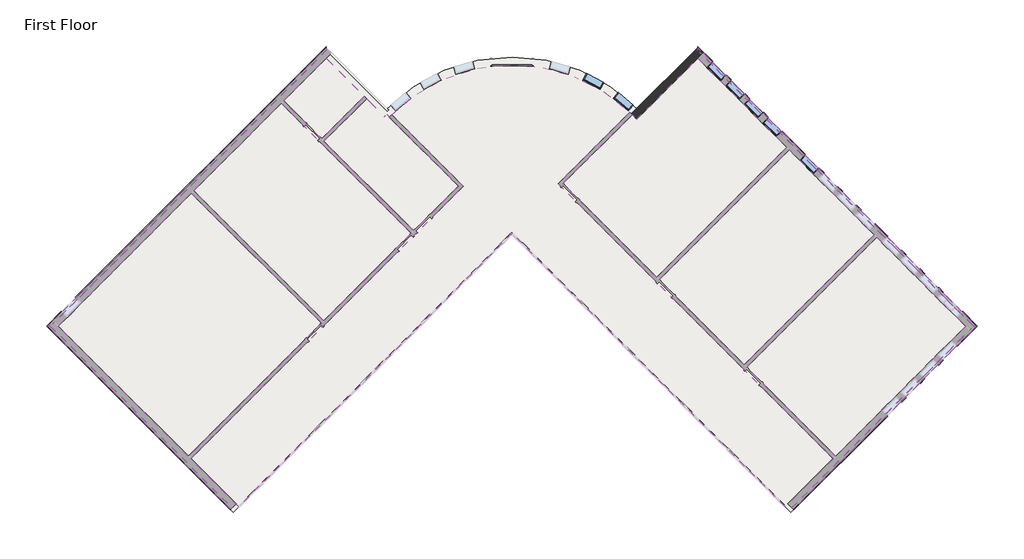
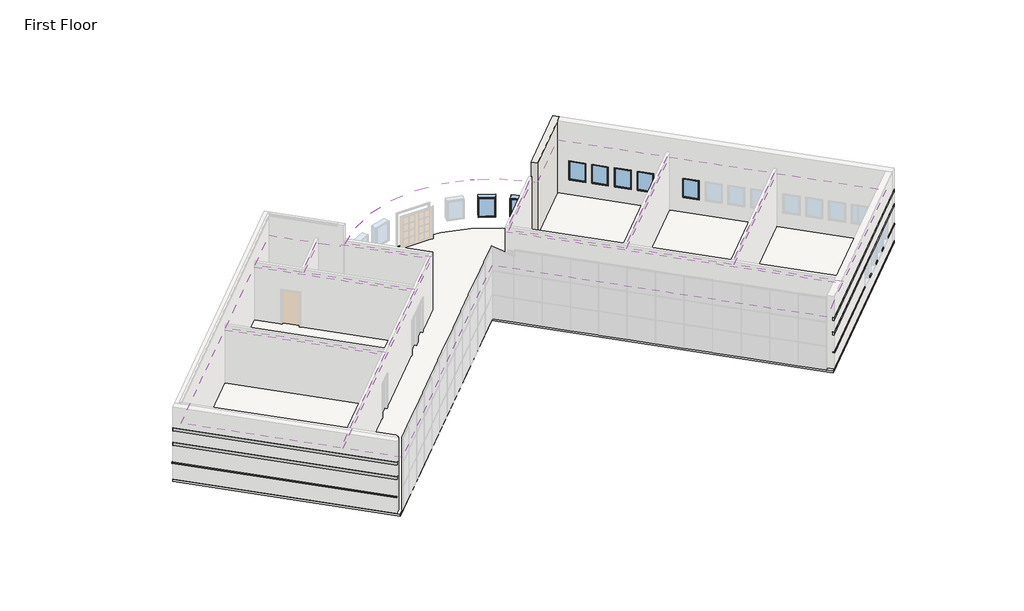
# One storey, part 5 of 5: 12 proxies, 8 coverings, 7 windows, 1 slab, 1 wall.
"""IFC4 building model written with IfcOpenShell, lengths in millimetres."""

from ifc_helpers import new_model, si_unit, point, frame, frame_2d, origin, place, context, project, spatial, polyline, circle_curve, trimmed, segment, composite_curve, outline, extrude, faceted_brep, transform, mapped, element, save
from ifc_brep_helpers import plane_surface, cylinder_surface, revolved_surface, advanced_brep
from components import window_15c49d37, window_0e2fc6ce

model = new_model("IFC4")

# Units and contexts
model_context = context("Model", 3, world=origin())
ifc_project = project(units=[si_unit("LENGTHUNIT", "METRE", prefix="MILLI")], contexts=[model_context])

# Site, building, storey
site = spatial("IfcSite", under=ifc_project)
building = spatial("IfcBuilding", under=site)
storey = spatial("IfcBuildingStorey", under=building, Name="First Floor", Elevation=0.0)

# Proxies
placement = place(None, origin())
element("IfcBuildingElementProxy", 1, Name="Wall Sweeps", at=placement, inside=storey, context=model_context, shape_type="Brep", body=[
    faceted_brep([(17381.0808171, -1390.1662438, 1085.85), (17446.187674, -1325.0593869, 1085.85), (17470.8833783, -1300.3636826, 1041.4), (17470.8833783, -1300.3636826, 1016.0), (17446.187674, -1325.0593869, 1016.0), (17381.0808171, -1390.1662438, 1016.0), (17979.3903812, -1988.4758079, 1085.85), (17979.3903812, -1988.4758079, 1016.0), (18158.9955036, -1988.4758079, 1016.0), (18158.9955036, -1988.4758079, 1041.4), (18109.604095, -1988.4758079, 1085.85)], [[[0, 1, 2, 3, 4, 5]], [[6, 7, 8, 9, 10]], [[1, 0, 6, 10]], [[2, 1, 10, 9]], [[3, 2, 9, 8]], [[5, 4, 3, 8, 7]], [[0, 5, 7, 6]]]),
    faceted_brep([(16269.7741222, -278.8595488, 1085.85), (16334.880979, -213.7526919, 1085.85), (16359.5766834, -189.0569876, 1041.4), (16359.5766834, -189.0569876, 1016.0), (16334.880979, -213.7526919, 1016.0), (16269.7741222, -278.8595488, 1016.0), (16485.3002691, -494.3856957, 1085.85), (16485.3002691, -494.3856957, 1016.0), (16550.4071259, -429.2788388, 1016.0), (16575.1028303, -404.5831345, 1016.0), (16575.1028303, -404.5831345, 1041.4), (16550.4071259, -429.2788388, 1085.85)], [[[0, 1, 2, 3, 4, 5]], [[6, 7, 8, 9, 10, 11]], [[1, 0, 6, 11]], [[2, 1, 11, 10]], [[3, 2, 10, 9]], [[5, 4, 3, 9, 8, 7]], [[0, 5, 7, 6]]]),
    faceted_brep([(15407.6695345, 583.2450388, 1085.85), (15472.7763914, 648.3518957, 1085.85), (15497.4720957, 673.0476, 1041.4), (15497.4720957, 673.0476, 1016.0), (15472.7763914, 648.3518957, 1016.0), (15407.6695345, 583.2450388, 1016.0), (15623.1956814, 367.7188919, 1085.85), (15623.1956814, 367.7188919, 1016.0), (15688.3025383, 432.8257488, 1016.0), (15712.9982426, 457.5214531, 1016.0), (15712.9982426, 457.5214531, 1041.4), (15688.3025383, 432.8257488, 1085.85)], [[[0, 1, 2, 3, 4, 5]], [[6, 7, 8, 9, 10, 11]], [[1, 0, 6, 11]], [[2, 1, 11, 10]], [[3, 2, 10, 9]], [[5, 4, 3, 9, 8, 7]], [[0, 5, 7, 6]]]),
    faceted_brep([(14545.5649469, 1445.3496264, 1085.85), (14610.6718038, 1510.4564833, 1085.85), (14635.3675081, 1535.1521876, 1041.4), (14635.3675081, 1535.1521876, 1016.0), (14610.6718038, 1510.4564833, 1016.0), (14545.5649469, 1445.3496264, 1016.0), (14761.0910938, 1229.8234795, 1085.85), (14761.0910938, 1229.8234795, 1016.0), (14826.1979507, 1294.9303364, 1016.0), (14850.893655, 1319.6260407, 1016.0), (14850.893655, 1319.6260407, 1041.4), (14826.1979507, 1294.9303364, 1085.85)], [[[0, 1, 2, 3, 4, 5]], [[6, 7, 8, 9, 10, 11]], [[1, 0, 6, 11]], [[2, 1, 11, 10]], [[3, 2, 10, 9]], [[5, 4, 3, 9, 8, 7]], [[0, 5, 7, 6]]]),
    faceted_brep([(13319.7599864, 2671.154587, 1085.85), (13384.8668433, 2736.2614438, 1085.85), (13409.5625476, 2760.9571482, 1041.4), (13409.5625476, 2760.9571482, 1016.0), (13384.8668433, 2736.2614438, 1016.0), (13319.7599864, 2671.154587, 1016.0), (13898.9865062, 2091.9280671, 1085.85), (13898.9865062, 2091.9280671, 1016.0), (13964.0933631, 2157.034924, 1016.0), (13988.7890674, 2181.7306284, 1016.0), (13988.7890674, 2181.7306284, 1041.4), (13964.0933631, 2157.034924, 1085.85)], [[[0, 1, 2, 3, 4, 5]], [[6, 7, 8, 9, 10, 11]], [[1, 0, 6, 11]], [[2, 1, 11, 10]], [[3, 2, 10, 9]], [[5, 4, 3, 9, 8, 7]], [[0, 5, 7, 6]]]),
    faceted_brep([(12457.6553988, 3533.2591746, 1085.85), (12522.7622556, 3598.3660315, 1085.85), (12547.45796, 3623.0617358, 1041.4), (12547.45796, 3623.0617358, 1016.0), (12522.7622556, 3598.3660315, 1016.0), (12457.6553988, 3533.2591746, 1016.0), (12673.1815457, 3317.7330277, 1085.85), (12673.1815457, 3317.7330277, 1016.0), (12738.2884025, 3382.8398846, 1016.0), (12762.9841069, 3407.5355889, 1016.0), (12762.9841069, 3407.5355889, 1041.4), (12738.2884025, 3382.8398846, 1085.85)], [[[0, 1, 2, 3, 4, 5]], [[6, 7, 8, 9, 10, 11]], [[1, 0, 6, 11]], [[2, 1, 11, 10]], [[3, 2, 10, 9]], [[5, 4, 3, 9, 8, 7]], [[0, 5, 7, 6]]]),
    faceted_brep([(8147.1324606, 7843.7821127, 1085.85), (8212.2393175, 7908.8889696, 1085.85), (8236.9350219, 7933.5846739, 1041.4), (8236.9350219, 7933.5846739, 1016.0), (8212.2393175, 7908.8889696, 1016.0), (8147.1324606, 7843.7821127, 1016.0), (8362.6586076, 7628.2559658, 1085.85), (8362.6586076, 7628.2559658, 1016.0), (8427.7654644, 7693.3628227, 1016.0), (8452.4611688, 7718.058527, 1016.0), (8452.4611688, 7718.058527, 1041.4), (8427.7654644, 7693.3628227, 1085.85)], [[[0, 1, 2, 3, 4, 5]], [[6, 7, 8, 9, 10, 11]], [[1, 0, 6, 11]], [[2, 1, 11, 10]], [[3, 2, 10, 9]], [[5, 4, 3, 9, 8, 7]], [[0, 5, 7, 6]]]),
    faceted_brep([(9009.2370483, 6981.6775251, 1085.85), (9074.3439051, 7046.7843819, 1085.85), (9099.0396095, 7071.4800863, 1041.4), (9099.0396095, 7071.4800863, 1016.0), (9074.3439051, 7046.7843819, 1016.0), (9009.2370483, 6981.6775251, 1016.0), (10086.8677828, 5904.0467905, 1085.85), (10086.8677828, 5904.0467905, 1016.0), (10151.9746397, 5969.1536474, 1016.0), (10176.670344, 5993.8493518, 1016.0), (10176.670344, 5993.8493518, 1041.4), (10151.9746397, 5969.1536474, 1085.85)], [[[0, 1, 2, 3, 4, 5]], [[6, 7, 8, 9, 10, 11]], [[1, 0, 6, 11]], [[2, 1, 11, 10]], [[3, 2, 10, 9]], [[5, 4, 3, 9, 8, 7]], [[0, 5, 7, 6]]]),
    faceted_brep([(10733.4462235, 5257.4683498, 1085.85), (10798.5530804, 5322.5752067, 1085.85), (10823.2487847, 5347.270911, 1041.4), (10823.2487847, 5347.270911, 1016.0), (10798.5530804, 5322.5752067, 1016.0), (10733.4462235, 5257.4683498, 1016.0), (10948.9723704, 5041.9422029, 1085.85), (10948.9723704, 5041.9422029, 1016.0), (11014.0792273, 5107.0490598, 1016.0), (11038.7749316, 5131.7447641, 1016.0), (11038.7749316, 5131.7447641, 1041.4), (11014.0792273, 5107.0490598, 1085.85)], [[[0, 1, 2, 3, 4, 5]], [[6, 7, 8, 9, 10, 11]], [[1, 0, 6, 11]], [[2, 1, 11, 10]], [[3, 2, 10, 9]], [[5, 4, 3, 9, 8, 7]], [[0, 5, 7, 6]]]),
    faceted_brep([(11595.5508111, 4395.3637622, 1085.85), (11660.657668, 4460.4706191, 1085.85), (11685.3533723, 4485.1663234, 1041.4), (11685.3533723, 4485.1663234, 1016.0), (11660.657668, 4460.4706191, 1016.0), (11595.5508111, 4395.3637622, 1016.0), (11811.076958, 4179.8376153, 1085.85), (11811.076958, 4179.8376153, 1016.0), (11876.1838149, 4244.9444722, 1016.0), (11900.8795193, 4269.6401765, 1016.0), (11900.8795193, 4269.6401765, 1041.4), (11876.1838149, 4244.9444722, 1085.85)], [[[0, 1, 2, 3, 4, 5]], [[6, 7, 8, 9, 10, 11]], [[1, 0, 6, 11]], [[2, 1, 11, 10]], [[3, 2, 10, 9]], [[5, 4, 3, 9, 8, 7]], [[0, 5, 7, 6]]]),
    faceted_brep([(5178.0352806, 10812.8792927, 1085.85), (5178.0352806, 10943.0930065, 1085.85), (5178.0352806, 10992.4844151, 1041.4), (5178.0352806, 10992.4844151, 1016.0), (5178.0352806, 10812.8792927, 1016.0), (5776.3448447, 10214.5697287, 1085.85), (5776.3448447, 10214.5697287, 1016.0), (5841.4517016, 10279.6765855, 1016.0), (5866.1474059, 10304.3722899, 1016.0), (5866.1474059, 10304.3722899, 1041.4), (5841.4517016, 10279.6765855, 1085.85), (5362.1305311, 10628.7840422, 1085.85), (5362.1305311, 10628.7840422, 1016.0)], [[[0, 1, 2, 3, 4]], [[5, 6, 7, 8, 9, 10]], [[1, 0, 11, 5, 10]], [[2, 1, 10, 9]], [[3, 2, 9, 8]], [[4, 3, 8, 7, 6, 12]], [[0, 4, 12, 6, 5, 11]]]),
    faceted_brep([(6422.9232854, 9567.9912879, 1085.85), (6488.0301423, 9633.0981448, 1085.85), (6512.7258466, 9657.7938491, 1041.4), (6512.7258466, 9657.7938491, 1016.0), (6488.0301423, 9633.0981448, 1016.0), (6422.9232854, 9567.9912879, 1016.0), (6638.4494323, 9352.465141, 1085.85), (6638.4494323, 9352.465141, 1016.0), (6703.5562892, 9417.5719979, 1016.0), (6728.2519935, 9442.2677022, 1016.0), (6728.2519935, 9442.2677022, 1041.4), (6703.5562892, 9417.5719979, 1085.85)], [[[0, 1, 2, 3, 4, 5]], [[6, 7, 8, 9, 10, 11]], [[1, 0, 6, 11]], [[2, 1, 11, 10]], [[3, 2, 10, 9]], [[5, 4, 3, 9, 8, 7]], [[0, 5, 7, 6]]]),
    faceted_brep([(7285.027873, 8705.8867003, 1085.85), (7350.1347299, 8770.9935572, 1085.85), (7374.8304342, 8795.6892615, 1041.4), (7374.8304342, 8795.6892615, 1016.0), (7350.1347299, 8770.9935572, 1016.0), (7285.027873, 8705.8867003, 1016.0), (7500.5540199, 8490.3605534, 1085.85), (7500.5540199, 8490.3605534, 1016.0), (7565.6608768, 8555.4674103, 1016.0), (7590.3565811, 8580.1631146, 1016.0), (7590.3565811, 8580.1631146, 1041.4), (7565.6608768, 8555.4674103, 1085.85)], [[[0, 1, 2, 3, 4, 5]], [[6, 7, 8, 9, 10, 11]], [[1, 0, 6, 11]], [[2, 1, 11, 10]], [[3, 2, 10, 9]], [[5, 4, 3, 9, 8, 7]], [[0, 5, 7, 6]]]),
])
element("IfcBuildingElementProxy", 2, Name="Wall Sweeps", at=placement, inside=storey, context=model_context, shape_type="Brep", body=[
    faceted_brep([(5178.0352806, 10943.0930065, 2336.8), (5178.0352806, 10943.0930065, 2133.6), (5178.0352806, 10812.8792927, 2133.6), (5178.0352806, 10812.8792927, 2336.8), (18109.604095, -1988.4758079, 2336.8), (17979.3903812, -1988.4758079, 2336.8), (17979.3903812, -1988.4758079, 2133.6), (18109.604095, -1988.4758079, 2133.6), (5427.237388, 10693.8908991, 2336.8), (17446.187674, -1325.0593869, 2133.6), (16550.4071259, -429.2788388, 2133.6), (16334.880979, -213.7526919, 2133.6), (15688.3025383, 432.8257488, 2133.6), (15472.7763914, 648.3518957, 2133.6), (14826.1979507, 1294.9303364, 2133.6), (14610.6718038, 1510.4564833, 2133.6), (13964.0933631, 2157.034924, 2133.6), (13384.8668433, 2736.2614438, 2133.6), (12738.2884025, 3382.8398846, 2133.6), (12522.7622556, 3598.3660315, 2133.6), (11876.1838149, 4244.9444722, 2133.6), (11660.657668, 4460.4706191, 2133.6), (11014.0792273, 5107.0490598, 2133.6), (10798.5530804, 5322.5752067, 2133.6), (10151.9746397, 5969.1536474, 2133.6), (9074.3439051, 7046.7843819, 2133.6), (8427.7654644, 7693.3628227, 2133.6), (8212.2393175, 7908.8889696, 2133.6), (7565.6608768, 8555.4674103, 2133.6), (7350.1347299, 8770.9935572, 2133.6), (6703.5562892, 9417.5719979, 2133.6), (6488.0301423, 9633.0981448, 2133.6), (5841.4517016, 10279.6765855, 2133.6), (5427.237388, 10693.8908991, 2133.6), (17381.0808171, -1390.1662438, 2133.6), (16485.3002691, -494.3856957, 2133.6), (16269.7741222, -278.8595488, 2133.6), (15623.1956814, 367.7188919, 2133.6), (15407.6695345, 583.2450388, 2133.6), (14761.0910938, 1229.8234795, 2133.6), (14545.5649469, 1445.3496264, 2133.6), (13898.9865062, 2091.9280671, 2133.6), (13319.7599864, 2671.154587, 2133.6), (12673.1815457, 3317.7330277, 2133.6), (12457.6553988, 3533.2591746, 2133.6), (11811.076958, 4179.8376153, 2133.6), (11595.5508111, 4395.3637622, 2133.6), (10948.9723704, 5041.9422029, 2133.6), (10733.4462235, 5257.4683498, 2133.6), (10086.8677828, 5904.0467905, 2133.6), (9009.2370483, 6981.6775251, 2133.6), (8362.6586076, 7628.2559658, 2133.6), (8147.1324606, 7843.7821127, 2133.6), (7500.5540199, 8490.3605534, 2133.6), (7285.027873, 8705.8867003, 2133.6), (6638.4494323, 9352.465141, 2133.6), (6422.9232854, 9567.9912879, 2133.6), (5776.3448447, 10214.5697287, 2133.6), (5362.1305311, 10628.7840422, 2133.6), (5362.1305311, 10628.7840422, 2336.8)], [[[0, 1, 2, 3]], [[4, 5, 6, 7]], [[1, 0, 8, 4, 7, 9, 10, 11, 12, 13, 14, 15, 16, 17, 18, 19, 20, 21, 22, 23, 24, 25, 26, 27, 28, 29, 30, 31, 32, 33]], [[2, 1, 33, 32, 31, 30, 29, 28, 27, 26, 25, 24, 23, 22, 21, 20, 19, 18, 17, 16, 15, 14, 13, 12, 11, 10, 9, 7, 6, 34, 35, 36, 37, 38, 39, 40, 41, 42, 43, 44, 45, 46, 47, 48, 49, 50, 51, 52, 53, 54, 55, 56, 57, 58]], [[3, 2, 58, 57, 56, 55, 54, 53, 52, 51, 50, 49, 48, 47, 46, 45, 44, 43, 42, 41, 40, 39, 38, 37, 36, 35, 34, 6, 5, 59]], [[0, 3, 59, 5, 4, 8]]]),
])
element("IfcBuildingElementProxy", 3, Name="Wall Sweeps", at=placement, inside=storey, context=model_context, shape_type="Brep", body=[
    faceted_brep([(5178.0352806, 10943.0930065, 3251.2), (5178.0352806, 10943.0930065, 3048.0), (5178.0352806, 10812.8792927, 3048.0), (5178.0352806, 10812.8792927, 3251.2), (18109.604095, -1988.4758079, 3251.2), (17979.3903812, -1988.4758079, 3251.2), (17979.3903812, -1988.4758079, 3048.0), (18109.604095, -1988.4758079, 3048.0), (5427.237388, 10693.8908991, 3251.2), (5427.237388, 10693.8908991, 3048.0), (5362.1305311, 10628.7840422, 3048.0), (5362.1305311, 10628.7840422, 3251.2)], [[[0, 1, 2, 3]], [[4, 5, 6, 7]], [[1, 0, 8, 4, 7, 9]], [[2, 1, 9, 7, 6, 10]], [[3, 2, 10, 6, 5, 11]], [[0, 3, 11, 5, 4, 8]]]),
])
element("IfcBuildingElementProxy", 4, Name="Wall Sweeps", at=placement, inside=storey, context=model_context, shape_type="Brep", body=[
    faceted_brep([(13898.9865062, -6068.8796829, 1085.85), (13964.0933631, -6133.9865398, 1085.85), (13988.7890674, -6158.6822441, 1041.4), (13988.7890674, -6158.6822441, 1016.0), (13964.0933631, -6133.9865398, 1016.0), (13898.9865062, -6068.8796829, 1016.0), (9548.0524155, -10419.8137735, 1085.85), (9548.0524155, -10419.8137735, 1016.0), (9613.1592724, -10484.9206304, 1016.0), (9637.8549767, -10509.6163347, 1016.0), (9637.8549767, -10509.6163347, 1041.4), (9613.1592724, -10484.9206304, 1085.85)], [[[0, 1, 2, 3, 4, 5]], [[6, 7, 8, 9, 10, 11]], [[1, 0, 6, 11]], [[2, 1, 11, 10]], [[3, 2, 10, 9]], [[5, 4, 3, 9, 8, 7]], [[0, 5, 7, 6]]]),
    faceted_brep([(17979.3903812, -1988.4758079, 1085.85), (18109.604095, -1988.4758079, 1085.85), (18158.9955036, -1988.4758079, 1041.4), (18158.9955036, -1988.4758079, 1016.0), (17979.3903812, -1988.4758079, 1016.0), (17131.8787098, -2835.9874793, 1085.85), (17131.8787098, -2835.9874793, 1016.0), (17196.9855667, -2901.0943362, 1016.0), (17221.681271, -2925.7900405, 1016.0), (17221.681271, -2925.7900405, 1041.4), (17196.9855667, -2901.0943362, 1085.85), (17795.2951307, -2172.5710583, 1085.85), (17795.2951307, -2172.5710583, 1016.0)], [[[0, 1, 2, 3, 4]], [[5, 6, 7, 8, 9, 10]], [[1, 0, 11, 5, 10]], [[2, 1, 10, 9]], [[3, 2, 9, 8]], [[4, 3, 8, 7, 6, 12]], [[0, 4, 12, 6, 5, 11]]]),
    faceted_brep([(16485.3002691, -3482.56592, 1085.85), (16550.4071259, -3547.6727769, 1085.85), (16575.1028303, -3572.3684812, 1041.4), (16575.1028303, -3572.3684812, 1016.0), (16550.4071259, -3547.6727769, 1016.0), (16485.3002691, -3482.56592, 1016.0), (16269.7741222, -3698.0920669, 1085.85), (16269.7741222, -3698.0920669, 1016.0), (16334.880979, -3763.1989238, 1016.0), (16359.5766834, -3787.8946281, 1016.0), (16359.5766834, -3787.8946281, 1041.4), (16334.880979, -3763.1989238, 1085.85)], [[[0, 1, 2, 3, 4, 5]], [[6, 7, 8, 9, 10, 11]], [[1, 0, 6, 11]], [[2, 1, 11, 10]], [[3, 2, 10, 9]], [[5, 4, 3, 9, 8, 7]], [[0, 5, 7, 6]]]),
    faceted_brep([(15623.1956814, -4344.6705076, 1085.85), (15688.3025383, -4409.7773645, 1085.85), (15712.9982426, -4434.4730688, 1041.4), (15712.9982426, -4434.4730688, 1016.0), (15688.3025383, -4409.7773645, 1016.0), (15623.1956814, -4344.6705076, 1016.0), (15407.6695345, -4560.1966545, 1085.85), (15407.6695345, -4560.1966545, 1016.0), (15472.7763914, -4625.3035114, 1016.0), (15497.4720957, -4649.9992157, 1016.0), (15497.4720957, -4649.9992157, 1041.4), (15472.7763914, -4625.3035114, 1085.85)], [[[0, 1, 2, 3, 4, 5]], [[6, 7, 8, 9, 10, 11]], [[1, 0, 6, 11]], [[2, 1, 11, 10]], [[3, 2, 10, 9]], [[5, 4, 3, 9, 8, 7]], [[0, 5, 7, 6]]]),
    faceted_brep([(14761.0910938, -5206.7750953, 1085.85), (14826.1979507, -5271.8819521, 1085.85), (14850.893655, -5296.5776565, 1041.4), (14850.893655, -5296.5776565, 1016.0), (14826.1979507, -5271.8819521, 1016.0), (14761.0910938, -5206.7750953, 1016.0), (14545.5649469, -5422.3012422, 1085.85), (14545.5649469, -5422.3012422, 1016.0), (14610.6718038, -5487.408099, 1016.0), (14635.3675081, -5512.1038034, 1016.0), (14635.3675081, -5512.1038034, 1041.4), (14610.6718038, -5487.408099, 1085.85)], [[[0, 1, 2, 3, 4, 5]], [[6, 7, 8, 9, 10, 11]], [[1, 0, 6, 11]], [[2, 1, 11, 10]], [[3, 2, 10, 9]], [[5, 4, 3, 9, 8, 7]], [[0, 5, 7, 6]]]),
])
element("IfcBuildingElementProxy", 5, Name="Wall Sweeps", at=placement, inside=storey, context=model_context, shape_type="Brep", body=[
    faceted_brep([(18109.604095, -1988.4758079, 2336.8), (18109.604095, -1988.4758079, 2133.6), (17979.3903812, -1988.4758079, 2133.6), (17979.3903812, -1988.4758079, 2336.8), (9613.1592724, -10484.9206304, 2336.8), (9548.0524155, -10419.8137735, 2336.8), (9548.0524155, -10419.8137735, 2133.6), (9613.1592724, -10484.9206304, 2133.6), (17860.4019876, -2237.6779152, 2336.8), (13964.0933631, -6133.9865398, 2133.6), (14610.6718038, -5487.408099, 2133.6), (14826.1979507, -5271.8819521, 2133.6), (15472.7763914, -4625.3035114, 2133.6), (15688.3025383, -4409.7773645, 2133.6), (16334.880979, -3763.1989238, 2133.6), (16550.4071259, -3547.6727769, 2133.6), (17196.9855667, -2901.0943362, 2133.6), (17860.4019876, -2237.6779152, 2133.6), (13898.9865062, -6068.8796829, 2133.6), (14545.5649469, -5422.3012422, 2133.6), (14761.0910938, -5206.7750953, 2133.6), (15407.6695345, -4560.1966545, 2133.6), (15623.1956814, -4344.6705076, 2133.6), (16269.7741222, -3698.0920669, 2133.6), (16485.3002691, -3482.56592, 2133.6), (17131.8787098, -2835.9874793, 2133.6), (17795.2951307, -2172.5710583, 2133.6), (17795.2951307, -2172.5710583, 2336.8)], [[[0, 1, 2, 3]], [[4, 5, 6, 7]], [[1, 0, 8, 4, 7, 9, 10, 11, 12, 13, 14, 15, 16, 17]], [[2, 1, 17, 16, 15, 14, 13, 12, 11, 10, 9, 7, 6, 18, 19, 20, 21, 22, 23, 24, 25, 26]], [[3, 2, 26, 25, 24, 23, 22, 21, 20, 19, 18, 6, 5, 27]], [[0, 3, 27, 5, 4, 8]]]),
])
element("IfcBuildingElementProxy", 6, Name="Wall Sweeps", at=placement, inside=storey, context=model_context, shape_type="Brep", body=[
    faceted_brep([(18109.604095, -1988.4758079, 3251.2), (18109.604095, -1988.4758079, 3048.0), (17979.3903812, -1988.4758079, 3048.0), (17979.3903812, -1988.4758079, 3251.2), (9613.1592724, -10484.9206304, 3251.2), (9548.0524155, -10419.8137735, 3251.2), (9548.0524155, -10419.8137735, 3048.0), (9613.1592724, -10484.9206304, 3048.0), (17860.4019876, -2237.6779152, 3251.2), (17860.4019876, -2237.6779152, 3048.0), (17795.2951307, -2172.5710583, 3048.0), (17795.2951307, -2172.5710583, 3251.2)], [[[0, 1, 2, 3]], [[4, 5, 6, 7]], [[1, 0, 8, 4, 7, 9]], [[2, 1, 9, 7, 6, 10]], [[3, 2, 10, 6, 5, 11]], [[0, 3, 11, 5, 4, 8]]]),
])
element("IfcBuildingElementProxy", 7, Name="Wall Sweeps", at=placement, inside=storey, context=model_context, shape_type="Brep", body=[
    faceted_brep([(-16434.0736067, -10419.8137735, 1085.85), (-16499.1804636, -10484.9206304, 1085.85), (-16523.876168, -10509.6163347, 1041.4), (-16523.876168, -10509.6163347, 1016.0), (-16499.1804636, -10484.9206304, 1016.0), (-16434.0736067, -10419.8137735, 1016.0), (-24865.4115724, -1988.4758079, 1085.85), (-24865.4115724, -1988.4758079, 1016.0), (-25045.0166948, -1988.4758079, 1016.0), (-25045.0166948, -1988.4758079, 1041.4), (-24995.6252862, -1988.4758079, 1085.85)], [[[0, 1, 2, 3, 4, 5]], [[6, 7, 8, 9, 10]], [[1, 0, 6, 10]], [[2, 1, 10, 9]], [[3, 2, 9, 8]], [[5, 4, 3, 8, 7]], [[0, 5, 7, 6]]]),
])
element("IfcBuildingElementProxy", 8, Name="Wall Sweeps", at=placement, inside=storey, context=model_context, shape_type="SweptSolid", body=[
    extrude(outline(polyline([(-16434.0736067, -10419.8137735), (-16499.1804636, -10484.9206304), (-24995.6252862, -1988.4758079), (-24865.4115724, -1988.4758079), (-16434.0736067, -10419.8137735)])), frame((0.0, 0.0, 2133.6), z_axis=(0.0, 0.0, 1.0), x_axis=(1.0, 0.0, 0.0)), (0.0, 0.0, 1.0), 203.2),
])
element("IfcBuildingElementProxy", 9, Name="Wall Sweeps", at=placement, inside=storey, context=model_context, shape_type="SweptSolid", body=[
    extrude(outline(polyline([(-16434.0736067, -10419.8137735), (-16499.1804636, -10484.9206304), (-24995.6252862, -1988.4758079), (-24865.4115724, -1988.4758079), (-16434.0736067, -10419.8137735)])), frame((0.0, 0.0, 3048.0), z_axis=(0.0, 0.0, 1.0), x_axis=(1.0, 0.0, 0.0)), (0.0, 0.0, 1.0), 203.2),
])
element("IfcBuildingElementProxy", 10, Name="Wall Sweeps", at=placement, inside=storey, context=model_context, shape_type="Brep", body=[
    faceted_brep([(-23620.5235676, -743.5878031, 1085.85), (-23685.6304245, -678.4809462, 1085.85), (-23710.3261288, -653.7852419, 1041.4), (-23710.3261288, -653.7852419, 1016.0), (-23685.6304245, -678.4809462, 1016.0), (-23620.5235676, -743.5878031, 1016.0), (-12064.0564718, 10812.8792927, 1085.85), (-12064.0564718, 10812.8792927, 1016.0), (-12064.0564718, 10992.4844151, 1016.0), (-12064.0564718, 10992.4844151, 1041.4), (-12064.0564718, 10943.0930065, 1085.85)], [[[0, 1, 2, 3, 4, 5]], [[6, 7, 8, 9, 10]], [[1, 0, 6, 10]], [[2, 1, 10, 9]], [[3, 2, 9, 8]], [[5, 4, 3, 8, 7]], [[0, 5, 7, 6]]]),
    faceted_brep([(-24865.4115724, -1988.4758079, 1085.85), (-24995.6252862, -1988.4758079, 1085.85), (-25045.0166948, -1988.4758079, 1041.4), (-25045.0166948, -1988.4758079, 1016.0), (-24865.4115724, -1988.4758079, 1016.0), (-24267.1020084, -1390.1662438, 1085.85), (-24267.1020084, -1390.1662438, 1016.0), (-24332.2088652, -1325.0593869, 1016.0), (-24356.9045696, -1300.3636826, 1016.0), (-24356.9045696, -1300.3636826, 1041.4), (-24332.2088652, -1325.0593869, 1085.85), (-24681.3163219, -1804.3805574, 1085.85), (-24681.3163219, -1804.3805574, 1016.0)], [[[0, 1, 2, 3, 4]], [[5, 6, 7, 8, 9, 10]], [[1, 0, 11, 5, 10]], [[2, 1, 10, 9]], [[3, 2, 9, 8]], [[4, 3, 8, 7, 6, 12]], [[0, 4, 12, 6, 5, 11]]]),
])
element("IfcBuildingElementProxy", 11, Name="Wall Sweeps", at=placement, inside=storey, context=model_context, shape_type="Brep", body=[
    faceted_brep([(-24995.6252862, -1988.4758079, 2336.8), (-24995.6252862, -1988.4758079, 2133.6), (-24865.4115724, -1988.4758079, 2133.6), (-24865.4115724, -1988.4758079, 2336.8), (-12064.0564718, 10943.0930065, 2336.8), (-12064.0564718, 10812.8792927, 2336.8), (-12064.0564718, 10812.8792927, 2133.6), (-12064.0564718, 10943.0930065, 2133.6), (-24746.4231788, -1739.2737005, 2336.8), (-23685.6304245, -678.4809462, 2133.6), (-24332.2088652, -1325.0593869, 2133.6), (-24746.4231788, -1739.2737005, 2133.6), (-23620.5235676, -743.5878031, 2133.6), (-24267.1020084, -1390.1662438, 2133.6), (-24681.3163219, -1804.3805574, 2133.6), (-24681.3163219, -1804.3805574, 2336.8)], [[[0, 1, 2, 3]], [[4, 5, 6, 7]], [[1, 0, 8, 4, 7, 9, 10, 11]], [[2, 1, 11, 10, 9, 7, 6, 12, 13, 14]], [[3, 2, 14, 13, 12, 6, 5, 15]], [[0, 3, 15, 5, 4, 8]]]),
])
element("IfcBuildingElementProxy", 12, Name="Wall Sweeps", at=placement, inside=storey, context=model_context, shape_type="Brep", body=[
    faceted_brep([(-24995.6252862, -1988.4758079, 3251.2), (-24995.6252862, -1988.4758079, 3048.0), (-24865.4115724, -1988.4758079, 3048.0), (-24865.4115724, -1988.4758079, 3251.2), (-12064.0564718, 10943.0930065, 3251.2), (-12064.0564718, 10812.8792927, 3251.2), (-12064.0564718, 10812.8792927, 3048.0), (-12064.0564718, 10943.0930065, 3048.0), (-24746.4231788, -1739.2737005, 3251.2), (-24746.4231788, -1739.2737005, 3048.0), (-24681.3163219, -1804.3805574, 3048.0), (-24681.3163219, -1804.3805574, 3251.2)], [[[0, 1, 2, 3]], [[4, 5, 6, 7]], [[1, 0, 8, 4, 7, 9]], [[2, 1, 9, 7, 6, 10]], [[3, 2, 10, 6, 5, 11]], [[0, 3, 11, 5, 4, 8]]]),
])

# Coverings
element("IfcCovering", 13, ObjectType="2' x 2' ACT System", at=placement, inside=storey, context=model_context, shape_type="SweptSolid", body=[
    extrude(outline(polyline([(-12281.8276828, -1847.036774), (-18460.2438941, -8025.4529853), (-24497.2210715, -1988.4758079), (-18318.8048602, 4189.9404034), (-12281.8276828, -1847.036774)])), frame((0.0, 0.0, 3352.8), z_axis=(0.0, 0.0, 1.0), x_axis=(1.0, 0.0, 0.0)), (0.0, 0.0, 1.0), 57.15),
])
element("IfcCovering", 14, ObjectType="2' x 2' ACT System", at=placement, inside=storey, context=model_context, shape_type="SweptSolid", body=[
    extrude(outline(polyline([(-18208.7967227, 4299.9485409), (-14149.720956, 8359.0243076), (-8112.7437786, 2322.0471303), (-12171.8195453, -1737.0286365), (-18208.7967227, 4299.9485409)])), frame((0.0, 0.0, 3352.8), z_axis=(0.0, 0.0, 1.0), x_axis=(1.0, 0.0, 0.0)), (0.0, 0.0, 1.0), 57.15),
])
element("IfcCovering", 15, ObjectType="2' x 2' ACT System", at=placement, inside=storey, context=model_context, shape_type="SweptSolid", body=[
    extrude(outline(polyline([(-14039.7128185, 8469.0324451), (-12064.0564718, 10444.6887918), (-10303.9262721, 8684.558592), (-12279.5826187, 6708.9022454), (-14039.7128185, 8469.0324451)])), frame((0.0, 0.0, 3352.8), z_axis=(0.0, 0.0, 1.0), x_axis=(1.0, 0.0, 0.0)), (0.0, 0.0, 1.0), 57.15),
])
element("IfcCovering", 16, ObjectType="2' x 2' ACT System", at=placement, inside=storey, context=model_context, shape_type="SweptSolid", body=[
    extrude(outline(polyline([(-10193.9181346, 8574.5504545), (-9361.2454813, 7741.8778012), (-9257.9725359, 7845.1507466), (-5923.8063491, 4510.9845598), (-8002.7356411, 2432.0552677), (-12169.5744813, 6598.8941079), (-10193.9181346, 8574.5504545)])), frame((0.0, 0.0, 3352.8), z_axis=(0.0, 0.0, 1.0), x_axis=(1.0, 0.0, 0.0)), (0.0, 0.0, 1.0), 57.15),
])
element("IfcCovering", 17, ObjectType="2' x 2' ACT System", at=placement, inside=storey, context=model_context, shape_type="SweptSolid", body=[
    extrude(outline(composite_curve([segment(polyline([(-1297.8519147, 4626.6053573), (11464.2145654, -8135.4611227), (9239.3561114, -10360.3195767), (-3443.0105956, 2322.0471303), (-16125.3773026, -10360.3195767), (-18350.2357566, -8135.4611227), (-5703.7900741, 4510.9845598), (-9024.2284636, 7831.4229492)]), True, "CONTINUOUS"), segment(trimmed(circle_curve(frame_2d((-3443.0105956, 2272.6557216)), 7877.175), [point((-9024.2284636, 7831.4229492))], [point((2021.619387, 7946.076659))], False, "CARTESIAN"), True, "CONTINUOUS"), segment(polyline([(2021.619387, 7946.076659), (-1297.8519147, 4626.6053573)]), True, "CONTINUOUS")], self_intersect=False)), frame((0.0, 0.0, 3352.8), z_axis=(0.0, 0.0, 1.0), x_axis=(1.0, 0.0, 0.0)), (0.0, 0.0, 1.0), 57.15),
])
element("IfcCovering", 18, ObjectType="2' x 2' ACT System", at=placement, inside=storey, context=model_context, shape_type="SweptSolid", body=[
    extrude(outline(composite_curve([segment(polyline([(2346.973313, 7613.6268242), (5178.0352806, 10444.6887918), (9308.9530963, 6313.7709761), (3271.9759189, 276.7937987), (-1077.8356397, 4626.6053573), (2132.6030957, 7837.0440928)]), True, "CONTINUOUS"), segment(trimmed(circle_curve(frame_2d((-3443.0105956, 2272.6557216)), 7877.175), [point((2132.6030957, 7837.0440928))], [point((2346.973313, 7613.6268242))], False, "CARTESIAN"), True, "CONTINUOUS")], self_intersect=False)), frame((0.0, 0.0, 3352.8), z_axis=(0.0, 0.0, 1.0), x_axis=(1.0, 0.0, 0.0)), (0.0, 0.0, 1.0), 57.15),
])
element("IfcCovering", 19, ObjectType="2' x 2' ACT System", at=placement, inside=storey, context=model_context, shape_type="SweptSolid", body=[
    extrude(outline(polyline([(3381.9840564, 166.7856612), (9418.9612338, 6203.7628386), (13370.2739271, 2252.4501453), (7333.2967497, -3784.5270321), (3381.9840564, 166.7856612)])), frame((0.0, 0.0, 3352.8), z_axis=(0.0, 0.0, 1.0), x_axis=(1.0, 0.0, 0.0)), (0.0, 0.0, 1.0), 57.15),
])
element("IfcCovering", 20, ObjectType="2' x 2' ACT System", at=placement, inside=storey, context=model_context, shape_type="SweptSolid", body=[
    extrude(outline(polyline([(7443.3048872, -3894.5351696), (13480.2820645, 2142.4420078), (17611.1998802, -1988.4758079), (11574.2227029, -8025.4529853), (7443.3048872, -3894.5351696)])), frame((0.0, 0.0, 3352.8), z_axis=(0.0, 0.0, 1.0), x_axis=(1.0, 0.0, 0.0)), (0.0, 0.0, 1.0), 57.15),
])

# Slab
element("IfcSlab", 21, ObjectType="LW Concrete on Metal Deck", at=placement, inside=storey, context=model_context, shape_type="SweptSolid", body=[
    extrude(outline(composite_curve([segment(polyline([(-16374.5794099, -10609.5216841), (-24995.6252862, -1988.4758079), (-12064.0564718, 10943.0930065), (-9237.4684553, 8116.50499)]), True, "CONTINUOUS"), segment(trimmed(circle_curve(frame_2d((-3443.0105956, 2272.6557216)), 8229.6), [point((-9237.4684553, 8116.50499))], [point((2351.4472641, 8116.50499))], False, "CARTESIAN"), True, "CONTINUOUS"), segment(polyline([(2351.4472641, 8116.50499), (5178.0352806, 10943.0930065), (18109.604095, -1988.4758079), (9488.5582187, -10609.5216841), (-3443.0105956, 2322.0471303), (-16374.5794099, -10609.5216841)]), True, "CONTINUOUS")], self_intersect=False)), frame((0.0, 0.0, -139.7), z_axis=(0.0, 0.0, 1.0), x_axis=(1.0, 0.0, 0.0)), (0.0, 0.0, 1.0), 139.7),
])

# Wall
element("IfcWall", 22, ObjectType="Exterior - Split Face and CMU on Mtl. Stud", at=placement, inside=storey, context=model_context, shape_type="AdvancedBrep", body=[
    advanced_brep(
    [(2346.973313, 7613.6268242, 0.0), (5178.0352806, 10444.6887918, 0.0), (5427.237388, 10693.8908991, 0.0), (5427.237388, 10693.8908991, 1016.0), (5362.1305311, 10628.7840422, 1016.0), (5362.1305311, 10628.7840422, 1085.85), (5427.237388, 10693.8908991, 1085.85), (5427.237388, 10693.8908991, 2133.6), (5362.1305311, 10628.7840422, 2133.6), (5362.1305311, 10628.7840422, 2336.8), (5427.237388, 10693.8908991, 2336.8), (5427.237388, 10693.8908991, 3048.0), (5362.1305311, 10628.7840422, 3048.0), (5362.1305311, 10628.7840422, 3251.2), (5427.237388, 10693.8908991, 3251.2), (5427.237388, 10693.8908991, 4572.0), (5178.0352806, 10444.6887918, 4572.0), (2346.973313, 7613.6268242, 4572.0), (2102.2428123, 7867.3005381, 4572.0), (2351.4472641, 8116.50499, 4572.0), (5178.0352806, 10943.0930065, 4572.0), (5178.0352806, 10943.0930065, 3251.2), (2351.4472641, 8116.50499, 3251.2), (2286.3398143, 8051.3975402, 3251.2), (2286.3398143, 8051.3975402, 3048.0), (2351.4472641, 8116.50499, 3048.0), (5178.0352806, 10943.0930065, 3048.0), (5178.0352806, 10943.0930065, 2336.8), (2351.4472641, 8116.50499, 2336.8), (2286.3398143, 8051.3975402, 2336.8), (2286.3398143, 8051.3975402, 2133.6), (2351.4472641, 8116.50499, 2133.6), (5178.0352806, 10943.0930065, 2133.6), (5178.0352806, 10943.0930065, 1085.85), (2351.4472641, 8116.50499, 1085.85), (2286.3398143, 8051.3975402, 1085.85), (2286.3398143, 8051.3975402, 1016.0), (2351.4472641, 8116.50499, 1016.0), (5178.0352806, 10943.0930065, 1016.0), (5178.0352806, 10943.0930065, 0.0), (2351.4472641, 8116.50499, 0.0), (2102.2428123, 7867.3005381, 0.0), (2167.2578198, 7802.1018319, 0.0), (5243.1421375, 10877.9861496, 0.0), (2351.3577606, 7986.2017727, 1016.0), (2351.3577606, 7986.2017727, 1085.85), (5178.0352806, 10812.8792927, 1085.85), (5178.0352806, 10812.8792927, 1016.0), (2351.3577606, 7986.2017727, 2133.6), (2351.3577606, 7986.2017727, 2336.8), (5178.0352806, 10812.8792927, 2336.8), (5178.0352806, 10812.8792927, 2133.6), (5178.0352806, 10812.8792927, 3048.0), (2351.3577606, 7986.2017727, 3048.0), (2351.3577606, 7986.2017727, 3251.2), (5178.0352806, 10812.8792927, 3251.2), (2132.6031084, 7837.04408, 0.0)],
    [
        (0, 1),
        (1, 2),
        (2, 3),
        (3, 4),
        (4, 5),
        (5, 6),
        (6, 7),
        (7, 8),
        (8, 9),
        (9, 10),
        (10, 11),
        (11, 12),
        (12, 13),
        (13, 14),
        (14, 15),
        (15, 16),
        (16, 17),
        (17, 0),
        (18, 19),
        (19, 20),
        (20, 21),
        (21, 22),
        (22, 23),
        (23, 24),
        (24, 25),
        (25, 26),
        (26, 27),
        (27, 28),
        (28, 29),
        (29, 30),
        (30, 31),
        (31, 32),
        (32, 33),
        (33, 34),
        (34, 35),
        (35, 36),
        (36, 37),
        (37, 38),
        (38, 39),
        (39, 40),
        (40, 41),
        (41, 18),
        (15, 20),
        (18, 17, circle_curve(frame((-3443.0105956, 2272.6557216, 4572.0), z_axis=(0.0, 0.0, -1.0), x_axis=(1.0, 0.0, 0.0)), 7877.175)),
        (0, 42, circle_curve(frame((-3443.0105956, 2272.6557216, 0.0), z_axis=(0.0, 0.0, 1.0), x_axis=(1.0, 0.0, 0.0)), 7877.175)),
        (42, 43),
        (43, 2),
        (44, 45),
        (45, 46),
        (46, 47),
        (47, 44),
        (48, 49),
        (49, 50),
        (50, 51),
        (51, 48),
        (52, 53),
        (53, 54),
        (54, 55),
        (55, 52),
        (14, 21),
        (43, 39),
        (38, 3),
        (6, 33),
        (32, 7),
        (10, 27),
        (26, 11),
        (46, 5),
        (4, 47),
        (50, 9),
        (8, 51),
        (55, 13),
        (12, 52),
        (42, 56, circle_curve(frame((-3443.0105956, 2272.6557216, 0.0), z_axis=(0.0, 0.0, 1.0), x_axis=(1.0, 0.0, 0.0)), 7877.175)),
        (56, 41, circle_curve(frame((-3443.0105956, 2272.6557216, 0.0), z_axis=(0.0, 0.0, 1.0), x_axis=(1.0, 0.0, 0.0)), 7877.175)),
        (45, 35, circle_curve(frame((-3443.0105956, 2272.6557216, 1085.85), z_axis=(0.0, 0.0, 1.0), x_axis=(0.684286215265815, 0.7292135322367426, 0.0)), 8137.525)),
        (36, 44, circle_curve(frame((-3443.0105956, 2272.6557216, 1016.0), z_axis=(0.0, 0.0, -1.0), x_axis=(0.684286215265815, 0.7292135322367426, 0.0)), 8137.525)),
        (30, 48, circle_curve(frame((-3443.0105956, 2272.6557216, 2133.6), z_axis=(0.0, 0.0, -1.0), x_axis=(-0.7040995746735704, 0.7101012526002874, 0.0)), 8137.525)),
        (29, 49, circle_curve(frame((-3443.0105956, 2272.6557216, 2336.8), z_axis=(0.0, 0.0, -1.0), x_axis=(-0.7040995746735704, 0.7101012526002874, 0.0)), 8137.525)),
        (24, 53, circle_curve(frame((-3443.0105956, 2272.6557216, 3048.0), z_axis=(0.0, 0.0, -1.0), x_axis=(-0.7040995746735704, 0.7101012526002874, 0.0)), 8137.525)),
        (23, 54, circle_curve(frame((-3443.0105956, 2272.6557216, 3251.2), z_axis=(0.0, 0.0, -1.0), x_axis=(-0.7040995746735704, 0.7101012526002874, 0.0)), 8137.525)),
    ],
    [
        plane_surface(frame((2409.8713313, 7676.5248424, 0.0), z_axis=(0.7071067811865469, -0.7071067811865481, 0.0), x_axis=(0.7071067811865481, 0.7071067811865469, 0.0))),
        plane_surface(frame((2160.6692239, 7925.7269498, 0.0), z_axis=(-0.7071067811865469, 0.7071067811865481, 0.0), x_axis=(-0.7071067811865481, -0.7071067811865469, 0.0))),
        plane_surface(frame((5302.6363343, 10569.2898454, 4572.0), z_axis=(0.0, 0.0, 1.0), x_axis=(-0.707106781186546, 0.7071067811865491, 0.0))),
        plane_surface(frame((2475.22429, 7741.8778012, 0.0), z_axis=(0.0, 0.0, -1.0), x_axis=(-0.7071067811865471, 0.7071067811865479, 0.0))),
        plane_surface(frame((2351.3577606, 7986.2017727, 1016.0), z_axis=(-0.7071067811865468, 0.7071067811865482, 0.0), x_axis=(0.7071067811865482, 0.7071067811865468, 0.0))),
        plane_surface(frame((2351.3577606, 7986.2017727, 2133.6), z_axis=(-0.7071067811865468, 0.7071067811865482, 0.0), x_axis=(0.7071067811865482, 0.7071067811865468, 0.0))),
        plane_surface(frame((2351.3577606, 7986.2017727, 3048.0), z_axis=(-0.7071067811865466, 0.7071067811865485, 0.0), x_axis=(0.7071067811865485, 0.7071067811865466, 0.0))),
        plane_surface(frame((5178.0352806, 10943.0930065, 0.0), z_axis=(0.7071067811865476, 0.7071067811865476, 0.0), x_axis=(-0.7071067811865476, 0.7071067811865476, 0.0))),
        plane_surface(frame((5178.0352806, 10812.8792927, 1016.0), z_axis=(0.7071067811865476, 0.7071067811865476, 0.0), x_axis=(0.7071067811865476, -0.7071067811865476, 0.0))),
        plane_surface(frame((5178.0352806, 10812.8792927, 2133.6), z_axis=(0.7071067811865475, 0.7071067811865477, 0.0), x_axis=(0.7071067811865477, -0.7071067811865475, 0.0))),
        plane_surface(frame((5178.0352806, 10812.8792927, 3048.0), z_axis=(0.7071067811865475, 0.7071067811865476, 0.0), x_axis=(0.7071067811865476, -0.7071067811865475, 0.0))),
        plane_surface(frame((0.0, 0.0, 0.0), z_axis=(0.0, 0.0, -1.0), x_axis=(1.0, 0.0, 0.0))),
        plane_surface(frame((-3443.0105956, 2272.6557216, 1085.85), z_axis=(0.0, 0.0, -1.0), x_axis=(0.684286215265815, 0.7292135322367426, 0.0))),
        plane_surface(frame((-3443.0105956, 2272.6557216, 1016.0), z_axis=(0.0, 0.0, 1.0), x_axis=(0.684286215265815, 0.7292135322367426, 0.0))),
        cylinder_surface(frame((-3443.0105956, 2272.6557216, 1016.0), z_axis=(0.0, 0.0, -1.0), x_axis=(0.684286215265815, 0.7292135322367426, 0.0)), 8137.525),
        plane_surface(frame((-3443.0105956, 2272.6557216, 2133.6), z_axis=(0.0, 0.0, 1.0), x_axis=(-0.7040995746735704, 0.7101012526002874, 0.0))),
        cylinder_surface(frame((-3443.0105956, 2272.6557216, 2133.6), z_axis=(0.0, 0.0, -1.0), x_axis=(-0.7040995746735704, 0.7101012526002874, 0.0)), 8137.525),
        plane_surface(frame((-3443.0105956, 2272.6557216, 2336.8), z_axis=(0.0, 0.0, -1.0), x_axis=(-0.7040995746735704, 0.7101012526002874, 0.0))),
        plane_surface(frame((-3443.0105956, 2272.6557216, 3048.0), z_axis=(0.0, 0.0, 1.0), x_axis=(-0.7040995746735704, 0.7101012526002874, 0.0))),
        cylinder_surface(frame((-3443.0105956, 2272.6557216, 3048.0), z_axis=(0.0, 0.0, -1.0), x_axis=(-0.7040995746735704, 0.7101012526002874, 0.0)), 8137.525),
        plane_surface(frame((-3443.0105956, 2272.6557216, 3251.2), z_axis=(0.0, 0.0, -1.0), x_axis=(-0.7040995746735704, 0.7101012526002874, 0.0))),
        revolved_surface(polyline([(4434.1644044, 2272.6557216, 0.0), (4434.1644044, 2272.6557216, 4572.0)]), (-3443.0105956, 2272.6557216, 0.0), (0.0, 0.0, -1.0)),
    ],
    [
        (0, [[1, 2, 3, 4, 5, 6, 7, 8, 9, 10, 11, 12, 13, 14, 15, 16, 17, 18]]),
        (1, [[19, 20, 21, 22, 23, 24, 25, 26, 27, 28, 29, 30, 31, 32, 33, 34, 35, 36, 37, 38, 39, 40, 41, 42]]),
        (2, [[-17, -16, 43, -20, -19, 44]]),
        (3, [[-2, -1, 45, 46, 47]]),
        (4, [[48, 49, 50, 51]]),
        (5, [[52, 53, 54, 55]]),
        (6, [[56, 57, 58, 59]]),
        (7, [[-43, -15, 60, -21]]),
        (7, [[-47, 61, -39, 62, -3]]),
        (7, [[-7, 63, -33, 64]]),
        (7, [[65, -27, 66, -11]]),
        (8, [[-50, 67, -5, 68]]),
        (9, [[-54, 69, -9, 70]]),
        (10, [[-59, 71, -13, 72]]),
        (11, [[-41, -40, -61, -46, 73, 74]]),
        (12, [[-49, 75, -35, -34, -63, -6, -67]]),
        (13, [[-51, -68, -4, -62, -38, -37, 76]]),
        (14, [[-48, -76, -36, -75]]),
        (15, [[-55, -70, -8, -64, -32, -31, 77]]),
        (16, [[-52, -77, -30, 78]]),
        (17, [[-53, -78, -29, -28, -65, -10, -69]]),
        (18, [[-56, -72, -12, -66, -26, -25, 79]]),
        (19, [[-57, -79, -24, 80]]),
        (20, [[-58, -80, -23, -22, -60, -14, -71]]),
        (21, [[-44, -42, -74, -73, -45, -18]]),
    ],
),
])

# Windows
window_shape = window_15c49d37(model_context)
element("IfcWindow", 23, ObjectType="Fixed : 36\" x 48\"", at=placement, inside=storey, context=model_context, shape_type="MappedRepresentation", body=[
    mapped(window_shape, transform((6013.1990999, 9858.7270799, 0.0), x_axis=(-0.7071067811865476, 0.7071067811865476, 0.0), y_axis=(-0.7071067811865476, -0.7071067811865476, 0.0), z_axis=(0.0, 0.0, 1.0))),
])
element("IfcWindow", 24, ObjectType="Fixed : 36\" x 48\"", at=placement, inside=storey, context=model_context, shape_type="MappedRepresentation", body=[
    mapped(window_shape, transform((6875.3036875, 8996.6224922, 0.0), x_axis=(-0.7071067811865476, 0.7071067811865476, 0.0), y_axis=(-0.7071067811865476, -0.7071067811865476, 0.0), z_axis=(0.0, 0.0, 1.0))),
])
element("IfcWindow", 25, ObjectType="Fixed : 36\" x 48\"", at=placement, inside=storey, context=model_context, shape_type="MappedRepresentation", body=[
    mapped(window_shape, transform((7737.4082751, 8134.5179046, 0.0), x_axis=(-0.7071067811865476, 0.7071067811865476, 0.0), y_axis=(-0.7071067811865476, -0.7071067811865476, 0.0), z_axis=(0.0, 0.0, 1.0))),
])
element("IfcWindow", 26, ObjectType="Fixed : 36\" x 48\"", at=placement, inside=storey, context=model_context, shape_type="MappedRepresentation", body=[
    mapped(window_shape, transform((8599.5128627, 7272.413317, 0.0), x_axis=(-0.7071067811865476, 0.7071067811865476, 0.0), y_axis=(-0.7071067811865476, -0.7071067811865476, 0.0), z_axis=(0.0, 0.0, 1.0))),
])
window_2_shape = window_0e2fc6ce(model_context)
element("IfcWindow", 27, ObjectType="Fixed : 36\" x 48\"", at=placement, inside=storey, context=model_context, shape_type="MappedRepresentation", body=[
    mapped(window_2_shape, transform((1754.0625119, 8408.157361, 0.0), x_axis=(0.7661032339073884, -0.6427175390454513, 0.0), y_axis=(0.6427175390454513, 0.7661032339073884, 0.0), z_axis=(0.0, 0.0, 1.0))),
])
element("IfcWindow", 28, ObjectType="Fixed : 36\" x 48\"", at=placement, inside=storey, context=model_context, shape_type="MappedRepresentation", body=[
    mapped(window_2_shape, transform((366.0546559, 9353.9671228, 0.0), x_axis=(0.8829107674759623, -0.4695408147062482, 0.0), y_axis=(0.4695408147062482, 0.8829107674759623, 0.0), z_axis=(0.0, 0.0, 1.0))),
])
element("IfcWindow", 29, ObjectType="Fixed : 36\" x 48\"", at=placement, inside=storey, context=model_context, shape_type="MappedRepresentation", body=[
    mapped(window_2_shape, transform((10377.6035747, 5494.322605, 0.0), x_axis=(0.7071067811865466, -0.7071067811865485, 0.0), y_axis=(0.7071067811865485, 0.7071067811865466, 0.0), z_axis=(0.0, 0.0, 1.0))),
])

save(model, "model.ifc")
